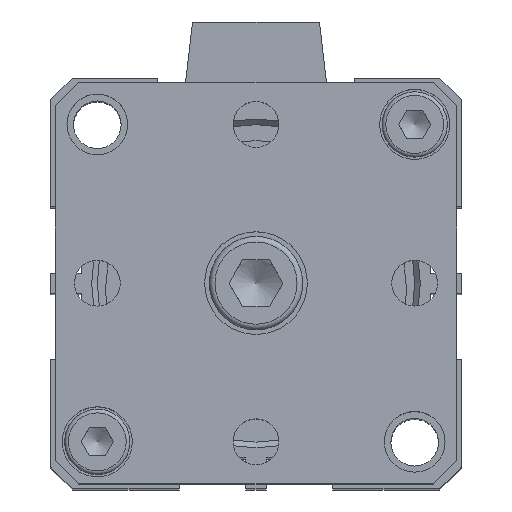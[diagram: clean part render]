
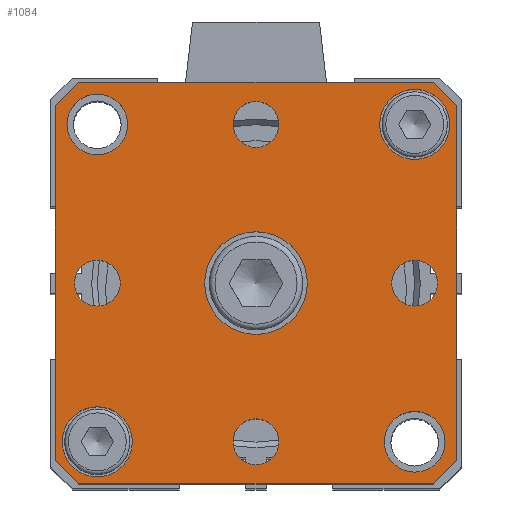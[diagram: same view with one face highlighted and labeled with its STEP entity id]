
A CAD part, top view. The second image highlights one B-rep face of the part: STEP entity #1084.
In plain terms, the highlighted planar face has unit normal (0, 0, 1).
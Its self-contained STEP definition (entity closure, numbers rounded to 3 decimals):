
#290=CARTESIAN_POINT('',(-16.976,-17.12,91.5));
#291=VERTEX_POINT('',#290);
#292=CARTESIAN_POINT('',(-20.726,-17.12,91.5));
#293=DIRECTION('',(0.0,0.0,-1.0));
#294=DIRECTION('',(1.0,0.0,0.0));
#295=AXIS2_PLACEMENT_3D('',#292,#293,#294);
#296=CIRCLE('',#295,3.75);
#297=EDGE_CURVE('',#291,#291,#296,.T.);
#392=CARTESIAN_POINT('',(17.024,16.88,91.5));
#393=VERTEX_POINT('',#392);
#394=CARTESIAN_POINT('',(13.274,16.88,91.5));
#395=DIRECTION('',(0.0,0.0,-1.0));
#396=DIRECTION('',(1.0,0.0,0.0));
#397=AXIS2_PLACEMENT_3D('',#394,#395,#396);
#398=CIRCLE('',#397,3.75);
#399=EDGE_CURVE('',#393,#393,#398,.T.);
#477=CARTESIAN_POINT('',(15.733,-0.12,91.5));
#478=VERTEX_POINT('',#477);
#479=CARTESIAN_POINT('',(13.274,-0.12,91.5));
#480=DIRECTION('',(0.0,0.0,-1.0));
#481=DIRECTION('',(1.0,0.0,0.0));
#482=AXIS2_PLACEMENT_3D('',#479,#480,#481);
#483=CIRCLE('',#482,2.459);
#484=EDGE_CURVE('',#478,#478,#483,.T.);
#526=CARTESIAN_POINT('',(-1.267,-17.12,91.5));
#527=VERTEX_POINT('',#526);
#528=CARTESIAN_POINT('',(-3.726,-17.12,91.5));
#529=DIRECTION('',(0.0,0.0,-1.0));
#530=DIRECTION('',(1.0,0.0,0.0));
#531=AXIS2_PLACEMENT_3D('',#528,#529,#530);
#532=CIRCLE('',#531,2.459);
#533=EDGE_CURVE('',#527,#527,#532,.T.);
#575=CARTESIAN_POINT('',(-18.267,-0.12,91.5));
#576=VERTEX_POINT('',#575);
#577=CARTESIAN_POINT('',(-20.726,-0.12,91.5));
#578=DIRECTION('',(0.0,0.0,-1.0));
#579=DIRECTION('',(1.0,0.0,0.0));
#580=AXIS2_PLACEMENT_3D('',#577,#578,#579);
#581=CIRCLE('',#580,2.459);
#582=EDGE_CURVE('',#576,#576,#581,.T.);
#624=CARTESIAN_POINT('',(-1.267,16.88,91.5));
#625=VERTEX_POINT('',#624);
#626=CARTESIAN_POINT('',(-3.726,16.88,91.5));
#627=DIRECTION('',(0.0,0.0,-1.0));
#628=DIRECTION('',(1.0,0.0,0.0));
#629=AXIS2_PLACEMENT_3D('',#626,#627,#628);
#630=CIRCLE('',#629,2.459);
#631=EDGE_CURVE('',#625,#625,#630,.T.);
#690=CARTESIAN_POINT('',(1.774,-0.12,91.5));
#691=VERTEX_POINT('',#690);
#692=CARTESIAN_POINT('',(-3.726,-0.12,91.5));
#693=DIRECTION('',(0.0,0.0,-1.0));
#694=DIRECTION('',(1.0,0.0,0.0));
#695=AXIS2_PLACEMENT_3D('',#692,#693,#694);
#696=CIRCLE('',#695,5.5);
#697=EDGE_CURVE('',#691,#691,#696,.T.);
#743=CARTESIAN_POINT('',(16.524,-17.12,91.5));
#744=VERTEX_POINT('',#743);
#745=CARTESIAN_POINT('',(13.274,-17.12,91.5));
#746=DIRECTION('',(0.0,0.0,-1.0));
#747=DIRECTION('',(-1.0,0.0,0.0));
#748=AXIS2_PLACEMENT_3D('',#745,#746,#747);
#749=CIRCLE('',#748,3.25);
#750=EDGE_CURVE('',#744,#744,#749,.T.);
#771=CARTESIAN_POINT('',(-17.476,16.88,91.5));
#772=VERTEX_POINT('',#771);
#773=CARTESIAN_POINT('',(-20.726,16.88,91.5));
#774=DIRECTION('',(0.0,0.0,-1.0));
#775=DIRECTION('',(-1.0,0.0,0.0));
#776=AXIS2_PLACEMENT_3D('',#773,#774,#775);
#777=CIRCLE('',#776,3.25);
#778=EDGE_CURVE('',#772,#772,#777,.T.);
#799=CARTESIAN_POINT('',(-22.726,21.38,91.5));
#800=VERTEX_POINT('',#799);
#801=CARTESIAN_POINT('',(15.274,21.38,91.5));
#802=VERTEX_POINT('',#801);
#803=CARTESIAN_POINT('',(-22.726,21.38,91.5));
#804=DIRECTION('',(1.0,0.0,0.0));
#805=VECTOR('',#804,38.);
#806=LINE('',#803,#805);
#807=EDGE_CURVE('',#800,#802,#806,.T.);
#839=CARTESIAN_POINT('',(17.774,18.88,91.5));
#840=VERTEX_POINT('',#839);
#841=CARTESIAN_POINT('',(15.274,21.38,91.5));
#842=DIRECTION('',(0.707,-0.707,0.0));
#843=VECTOR('',#842,3.536);
#844=LINE('',#841,#843);
#845=EDGE_CURVE('',#802,#840,#844,.T.);
#870=CARTESIAN_POINT('',(17.774,-19.12,91.5));
#871=VERTEX_POINT('',#870);
#872=CARTESIAN_POINT('',(17.774,18.88,91.5));
#873=DIRECTION('',(0.0,-1.0,0.0));
#874=VECTOR('',#873,38.);
#875=LINE('',#872,#874);
#876=EDGE_CURVE('',#840,#871,#875,.T.);
#901=CARTESIAN_POINT('',(15.274,-21.62,91.5));
#902=VERTEX_POINT('',#901);
#903=CARTESIAN_POINT('',(17.774,-19.12,91.5));
#904=DIRECTION('',(-0.707,-0.707,0.0));
#905=VECTOR('',#904,3.536);
#906=LINE('',#903,#905);
#907=EDGE_CURVE('',#871,#902,#906,.T.);
#932=CARTESIAN_POINT('',(-22.726,-21.62,91.5));
#933=VERTEX_POINT('',#932);
#934=CARTESIAN_POINT('',(15.274,-21.62,91.5));
#935=DIRECTION('',(-1.0,0.0,0.0));
#936=VECTOR('',#935,38.);
#937=LINE('',#934,#936);
#938=EDGE_CURVE('',#902,#933,#937,.T.);
#963=CARTESIAN_POINT('',(-25.226,-19.12,91.5));
#964=VERTEX_POINT('',#963);
#965=CARTESIAN_POINT('',(-22.726,-21.62,91.5));
#966=DIRECTION('',(-0.707,0.707,0.0));
#967=VECTOR('',#966,3.536);
#968=LINE('',#965,#967);
#969=EDGE_CURVE('',#933,#964,#968,.T.);
#994=CARTESIAN_POINT('',(-25.226,18.88,91.5));
#995=VERTEX_POINT('',#994);
#996=CARTESIAN_POINT('',(-25.226,-19.12,91.5));
#997=DIRECTION('',(0.0,1.0,0.0));
#998=VECTOR('',#997,38.);
#999=LINE('',#996,#998);
#1000=EDGE_CURVE('',#964,#995,#999,.T.);
#1025=CARTESIAN_POINT('',(-25.226,18.88,91.5));
#1026=DIRECTION('',(0.707,0.707,0.0));
#1027=VECTOR('',#1026,3.536);
#1028=LINE('',#1025,#1027);
#1029=EDGE_CURVE('',#995,#800,#1028,.T.);
#1042=CARTESIAN_POINT('',(-3.726,-0.12,91.5));
#1043=DIRECTION('',(0.0,0.0,1.0));
#1044=DIRECTION('',(1.0,0.0,0.0));
#1045=AXIS2_PLACEMENT_3D('',#1042,#1043,#1044);
#1046=PLANE('',#1045);
#1047=ORIENTED_EDGE('',*,*,#807,.F.);
#1048=ORIENTED_EDGE('',*,*,#1029,.F.);
#1049=ORIENTED_EDGE('',*,*,#1000,.F.);
#1050=ORIENTED_EDGE('',*,*,#969,.F.);
#1051=ORIENTED_EDGE('',*,*,#938,.F.);
#1052=ORIENTED_EDGE('',*,*,#907,.F.);
#1053=ORIENTED_EDGE('',*,*,#876,.F.);
#1054=ORIENTED_EDGE('',*,*,#845,.F.);
#1055=EDGE_LOOP('',(#1047,#1048,#1049,#1050,#1051,#1052,#1053,#1054));
#1056=FACE_OUTER_BOUND('',#1055,.T.);
#1057=ORIENTED_EDGE('',*,*,#297,.T.);
#1058=EDGE_LOOP('',(#1057));
#1059=FACE_BOUND('',#1058,.T.);
#1060=ORIENTED_EDGE('',*,*,#399,.T.);
#1061=EDGE_LOOP('',(#1060));
#1062=FACE_BOUND('',#1061,.T.);
#1063=ORIENTED_EDGE('',*,*,#484,.T.);
#1064=EDGE_LOOP('',(#1063));
#1065=FACE_BOUND('',#1064,.T.);
#1066=ORIENTED_EDGE('',*,*,#533,.T.);
#1067=EDGE_LOOP('',(#1066));
#1068=FACE_BOUND('',#1067,.T.);
#1069=ORIENTED_EDGE('',*,*,#582,.T.);
#1070=EDGE_LOOP('',(#1069));
#1071=FACE_BOUND('',#1070,.T.);
#1072=ORIENTED_EDGE('',*,*,#631,.T.);
#1073=EDGE_LOOP('',(#1072));
#1074=FACE_BOUND('',#1073,.T.);
#1075=ORIENTED_EDGE('',*,*,#697,.T.);
#1076=EDGE_LOOP('',(#1075));
#1077=FACE_BOUND('',#1076,.T.);
#1078=ORIENTED_EDGE('',*,*,#750,.T.);
#1079=EDGE_LOOP('',(#1078));
#1080=FACE_BOUND('',#1079,.T.);
#1081=ORIENTED_EDGE('',*,*,#778,.T.);
#1082=EDGE_LOOP('',(#1081));
#1083=FACE_BOUND('',#1082,.T.);
#1084=ADVANCED_FACE('',(#1056,#1059,#1062,#1065,#1068,#1071,#1074,#1077,#1080,#1083),#1046,.T.);
